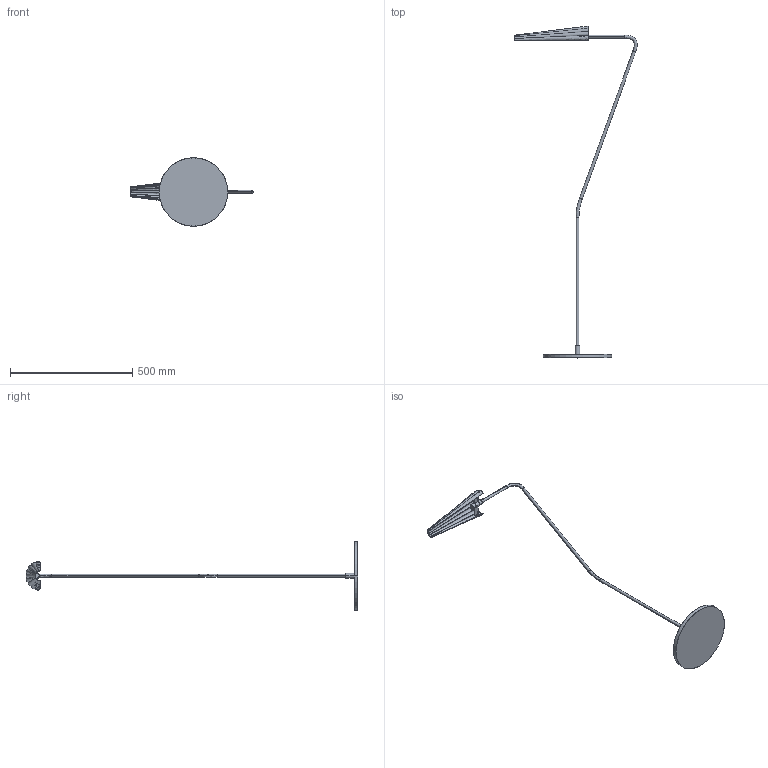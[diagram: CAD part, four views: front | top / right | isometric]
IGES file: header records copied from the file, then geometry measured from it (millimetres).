
Start section: SolidWorks IGES file using analytic representation for surfaces
Global section: file name: C:\Users\Agus\Desktop\NOVEDADES SEPT 2022 - 3D\BION\P1306\SOLID\P1306.IGS; native system: SolidWorks 2018; preprocessor: SolidWorks 2018; author: Agus; date: 220630.103155; units: millimetre
Bounding box: 501.06 x 1358.7 x 280 mm (x, y, z)
Surface area: 297771.6 mm2 (no closed solid volume)
Topology: 0 solids, 0 shells, 69 faces, 1132 edges, 1132 vertices
Faces by surface type: bspline 53, revolution 16
